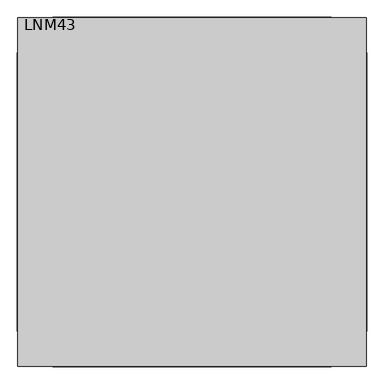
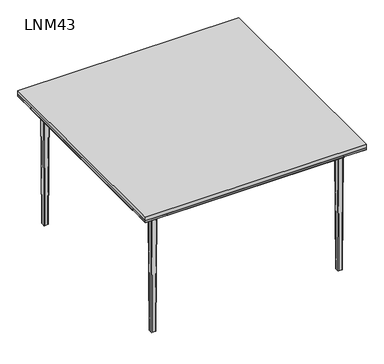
"""IFC4 building model written with IfcOpenShell, lengths in millimetres: furniture geometry, Contact Desks and Operative Twin Desks : LNM43."""

from ifc_helpers import new_model, si_unit, point, frame, origin, place, context, project, spatial, polyline, circle_curve, ellipse_curve, trimmed, outline, extrude, faceted_brep, source, transform, mapped, element, save
from ifc_brep_helpers import plane_surface, cylinder_surface, revolved_surface, extruded_surface, advanced_brep


def lnm43_4dd2b5fd(model_context):
    return source(origin(), model_context, "Body", "SolidModel", [
        extrude(outline(polyline([(600.0, -480.0), (600.0, -600.0), (480.0, -600.0), (480.0, -480.0), (600.0, -480.0)])), frame((0.0, 0.0, 710.0), z_axis=(0.0, 0.0, 1.0), x_axis=(1.0, 0.0, 0.0)), (0.0, 0.0, 1.0), 10.0),
        extrude(outline(polyline([(600.0, 600.0), (600.0, 480.0), (480.0, 480.0), (480.0, 600.0), (600.0, 600.0)])), frame((0.0, 0.0, 710.0), z_axis=(0.0, 0.0, 1.0), x_axis=(1.0, 0.0, 0.0)), (0.0, 0.0, 1.0), 10.0),
        extrude(outline(polyline([(-480.0, 600.0), (-480.0, 480.0), (-600.0, 480.0), (-600.0, 600.0), (-480.0, 600.0)])), frame((0.0, 0.0, 710.0), z_axis=(0.0, 0.0, 1.0), x_axis=(1.0, 0.0, 0.0)), (0.0, 0.0, 1.0), 10.0),
        extrude(outline(polyline([(-600.0, 480.0), (-480.0, 480.0), (-480.0, -480.0), (-600.0, -480.0), (-600.0, 480.0)])), frame((0.0, 0.0, 710.0), z_axis=(0.0, 0.0, 1.0), x_axis=(1.0, 0.0, 0.0)), (0.0, 0.0, 1.0), 10.0),
        extrude(outline(polyline([(480.0, 480.0), (600.0, 480.0), (600.0, -480.0), (480.0, -480.0), (480.0, 480.0)])), frame((0.0, 0.0, 710.0), z_axis=(0.0, 0.0, 1.0), x_axis=(1.0, 0.0, 0.0)), (0.0, 0.0, 1.0), 10.0),
        extrude(outline(polyline([(480.0, -480.0), (480.0, -600.0), (-480.0, -600.0), (-480.0, -480.0), (480.0, -480.0)])), frame((0.0, 0.0, 710.0), z_axis=(0.0, 0.0, 1.0), x_axis=(1.0, 0.0, 0.0)), (0.0, 0.0, 1.0), 10.0),
        extrude(outline(polyline([(480.0, 600.0), (480.0, 480.0), (-480.0, 480.0), (-480.0, 600.0), (480.0, 600.0)])), frame((0.0, 0.0, 710.0), z_axis=(0.0, 0.0, 1.0), x_axis=(1.0, 0.0, 0.0)), (0.0, 0.0, 1.0), 10.0),
        extrude(outline(polyline([(710.0, 480.0), (675.0, 480.0), (675.0, 528.7129935), (710.0, 601.7129935), (710.0, 480.0)])), frame((0.0, -480.0, 0.0), z_axis=(0.0, 1.0, 0.0), x_axis=(0.0, 0.0, 1.0)), (0.0, 0.0, 1.0), 960.0),
        extrude(outline(polyline([(710.0, -480.0), (710.0, -601.7129935), (675.0, -528.7129935), (675.0, -480.0), (710.0, -480.0)])), frame((0.0, -480.0, 0.0), z_axis=(0.0, 1.0, 0.0), x_axis=(0.0, 0.0, 1.0)), (0.0, 0.0, 1.0), 960.0),
        extrude(outline(polyline([(480.0, 710.0), (601.7129935, 710.0), (528.7129935, 675.0), (480.0, 675.0), (480.0, 710.0)])), frame((-480.0, 0.0, 0.0), z_axis=(1.0, 0.0, 0.0), x_axis=(0.0, 1.0, 0.0)), (0.0, 0.0, 1.0), 960.0),
        extrude(outline(polyline([(-480.0, 710.0), (-480.0, 675.0), (-528.7129935, 675.0), (-601.7129935, 710.0), (-480.0, 710.0)])), frame((-480.0, 0.0, 0.0), z_axis=(1.0, 0.0, 0.0), x_axis=(0.0, 1.0, 0.0)), (0.0, 0.0, 1.0), 960.0),
        faceted_brep([(-480.0, 480.0, 710.0), (-480.0, 600.0, 710.0), (-600.0, 600.0, 710.0), (-600.0, 480.0, 710.0), (-480.0, 480.0, 675.0), (-527.0, 480.0, 675.0), (-527.0, 527.0, 675.0), (-480.0, 527.0, 675.0)], [[[0, 1, 2, 3]], [[4, 5, 6, 7]], [[1, 0, 4, 7]], [[0, 3, 5, 4]], [[6, 2, 1, 7]], [[2, 6, 5, 3]]]),
        advanced_brep(
        [(-487.0, 495.0, 675.0), (-487.0, 519.0, 675.0), (-495.0, 527.0, 675.0), (-519.0, 527.0, 675.0), (-527.0, 519.0, 675.0), (-527.0, 495.0, 675.0), (-519.0, 487.0, 675.0), (-495.0, 487.0, 675.0), (-519.0, 492.0, 665.0), (-522.0, 495.0, 665.0), (-522.0, 519.0, 665.0), (-519.0, 522.0, 665.0), (-495.0, 522.0, 665.0), (-492.0, 519.0, 665.0), (-492.0, 495.0, 665.0), (-495.0, 492.0, 665.0), (-487.0, 495.0, 672.0), (-487.0, 519.0, 672.0), (-495.0, 527.0, 672.0), (-519.0, 527.0, 672.0), (-527.0, 519.0, 672.0), (-527.0, 495.0, 672.0), (-519.0, 487.0, 672.0), (-495.0, 487.0, 672.0)],
        [
            (0, 1),
            (1, 2, circle_curve(frame((-495.0, 519.0, 675.0), z_axis=(0.0, 0.0, 1.0), x_axis=(0.0, -1.0000000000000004, 0.0)), 8.0)),
            (2, 3),
            (3, 4, circle_curve(frame((-519.0, 519.0, 675.0), z_axis=(0.0, 0.0, 1.0), x_axis=(0.0, -1.0000000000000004, 0.0)), 8.0)),
            (4, 5),
            (5, 6, circle_curve(frame((-519.0, 495.0, 675.0), z_axis=(0.0, 0.0, 1.0), x_axis=(0.0, -1.0000000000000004, 0.0)), 8.0)),
            (6, 7),
            (7, 0, circle_curve(frame((-495.0, 495.0, 675.0), z_axis=(0.0, 0.0, 1.0), x_axis=(0.0, -1.0000000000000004, 0.0)), 8.0)),
            (8, 9, circle_curve(frame((-519.0, 495.0, 665.0), z_axis=(0.0, 0.0, -1.0), x_axis=(0.0, -1.0000000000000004, 0.0)), 3.0)),
            (9, 10),
            (10, 11, circle_curve(frame((-519.0, 519.0, 665.0), z_axis=(0.0, 0.0, -1.0), x_axis=(-1.0000000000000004, 0.0, 0.0)), 3.0)),
            (11, 12),
            (12, 13, circle_curve(frame((-495.0, 519.0, 665.0), z_axis=(0.0, 0.0, -1.0), x_axis=(0.0, 1.0000000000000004, 0.0)), 3.0)),
            (13, 14),
            (14, 15, circle_curve(frame((-495.0, 495.0, 665.0), z_axis=(0.0, 0.0, -1.0), x_axis=(1.0000000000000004, 0.0, 0.0)), 3.0)),
            (15, 8),
            (0, 16),
            (16, 17),
            (17, 1),
            (17, 18, circle_curve(frame((-495.0, 519.0, 672.0), z_axis=(0.0, 0.0, 1.0), x_axis=(0.0, -1.0000000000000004, 0.0)), 8.0)),
            (18, 2),
            (18, 19),
            (19, 3),
            (19, 20, circle_curve(frame((-519.0, 519.0, 672.0), z_axis=(0.0, 0.0, 1.0), x_axis=(0.0, -1.0000000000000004, 0.0)), 8.0)),
            (20, 4),
            (20, 21),
            (21, 5),
            (21, 22, circle_curve(frame((-519.0, 495.0, 672.0), z_axis=(0.0, 0.0, 1.0), x_axis=(0.0, -1.0000000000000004, 0.0)), 8.0)),
            (22, 6),
            (22, 23),
            (23, 7),
            (23, 16, circle_curve(frame((-495.0, 495.0, 672.0), z_axis=(0.0, 0.0, 1.0), x_axis=(0.0, -1.0000000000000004, 0.0)), 8.0)),
            (21, 9, circle_curve(frame((-530.9600528, 495.0, 663.8856766), z_axis=(0.0, 1.0000000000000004, 0.0), x_axis=(-1.0000000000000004, 0.0, 0.0)), 9.0290787)),
            (8, 22, circle_curve(frame((-519.0, 483.0399472, 663.8856766), z_axis=(1.0000000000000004, 0.0, 0.0), x_axis=(0.0, -1.0000000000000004, 0.0)), 9.0290787)),
            (20, 10, circle_curve(frame((-530.9600528, 519.0, 663.8856766), z_axis=(0.0, 1.0, 0.0), x_axis=(-1.0000000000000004, 0.0, 0.0)), 9.0290787)),
            (19, 11, circle_curve(frame((-519.0, 530.9600528, 663.8856766), z_axis=(1.0000000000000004, 0.0, 0.0), x_axis=(0.0, 1.0000000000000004, 0.0)), 9.0290787)),
            (18, 12, circle_curve(frame((-495.0, 530.9600528, 663.8856766), z_axis=(1.0, 0.0, 0.0), x_axis=(0.0, 1.0000000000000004, 0.0)), 9.0290787)),
            (17, 13, circle_curve(frame((-483.0399472, 519.0, 663.8856766), z_axis=(0.0, -1.0000000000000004, 0.0), x_axis=(1.0000000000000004, 0.0, 0.0)), 9.0290787)),
            (16, 14, circle_curve(frame((-483.0399472, 495.0, 663.8856766), z_axis=(0.0, -1.0, 0.0), x_axis=(1.0000000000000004, 0.0, 0.0)), 9.0290787)),
            (23, 15, circle_curve(frame((-495.0, 483.0399472, 663.8856766), z_axis=(-1.0000000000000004, 0.0, 0.0), x_axis=(0.0, -1.0000000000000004, 0.0)), 9.0290787)),
        ],
        [
            plane_surface(frame((-487.0, 1180.663284, 675.0), z_axis=(0.0, 0.0, 1.0), x_axis=(0.0, 1.0, 0.0))),
            plane_surface(frame((-487.0, 1180.663284, 665.0), z_axis=(0.0, 0.0, -1.0), x_axis=(0.0, -1.0, 0.0))),
            plane_surface(frame((-487.0, 495.0, 675.0), z_axis=(1.0, 0.0, 0.0), x_axis=(0.0, 0.0, -1.0))),
            cylinder_surface(frame((-495.0, 519.0, 665.0), z_axis=(0.0, 0.0, 1.0), x_axis=(0.0, -1.0000000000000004, 0.0)), 8.0),
            plane_surface(frame((-495.0, 527.0, 675.0), z_axis=(0.0, 1.0, 0.0), x_axis=(0.0, 0.0, -1.0))),
            cylinder_surface(frame((-519.0, 519.0, 665.0), z_axis=(0.0, 0.0, 1.0), x_axis=(0.0, -1.0000000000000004, 0.0)), 8.0),
            plane_surface(frame((-527.0, 519.0, 675.0), z_axis=(-1.0, 0.0, 0.0), x_axis=(0.0, 0.0, -1.0))),
            cylinder_surface(frame((-519.0, 495.0, 665.0), z_axis=(0.0, 0.0, 1.0), x_axis=(0.0, -1.0000000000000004, 0.0)), 8.0),
            plane_surface(frame((-519.0, 487.0, 675.0), z_axis=(0.0, -1.0, 0.0), x_axis=(0.0, 0.0, -1.0))),
            cylinder_surface(frame((-495.0, 495.0, 665.0), z_axis=(0.0, 0.0, 1.0), x_axis=(0.0, -1.0000000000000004, 0.0)), 8.0),
            revolved_surface(trimmed(ellipse_curve(frame((-519.0, 483.0399472, 663.8856766), z_axis=(-1.0000000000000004, 0.0, 0.0), x_axis=(0.0, -1.0000000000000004, 0.0)), 9.0290787, 9.0290787), [point((-519.0, 487.0, 672.0))], [point((-519.0, 492.0, 665.0))], True, "CARTESIAN"), (-519.0, 495.0, 0.0), (0.0, 0.0, -1.0)),
            revolved_surface(polyline([(-539.9891315, 495.0, 663.8856766), (-539.9891315, 519.0, 663.8856766)]), (-530.9600528, 495.0, 663.8856766), (0.0, -1.0000000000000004, 0.0)),
            revolved_surface(trimmed(ellipse_curve(frame((-530.9600528, 519.0, 663.8856766), z_axis=(0.0, 1.0000000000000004, 0.0), x_axis=(-1.0000000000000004, 0.0, 0.0)), 9.0290787, 9.0290787), [point((-527.0, 519.0, 672.0))], [point((-522.0, 519.0, 665.0))], True, "CARTESIAN"), (-519.0, 519.0, 0.0), (0.0, 0.0, -1.0)),
            revolved_surface(polyline([(-519.0, 539.9891315, 663.8856766), (-495.0, 539.9891315, 663.8856766)]), (-519.0, 530.9600528, 663.8856766), (-1.0000000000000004, 0.0, 0.0)),
            revolved_surface(trimmed(ellipse_curve(frame((-495.0, 530.9600528, 663.8856766), z_axis=(1.0000000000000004, 0.0, 0.0), x_axis=(0.0, 1.0000000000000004, 0.0)), 9.0290787, 9.0290787), [point((-495.0, 527.0, 672.0))], [point((-495.0, 522.0, 665.0))], True, "CARTESIAN"), (-495.0, 519.0, 0.0), (0.0, 0.0, -1.0)),
            revolved_surface(polyline([(-474.01086849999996, 519.0, 663.8856766), (-474.01086849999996, 495.0, 663.8856766)]), (-483.0399472, 519.0, 663.8856766), (0.0, 1.0000000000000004, 0.0)),
            revolved_surface(trimmed(ellipse_curve(frame((-483.0399472, 495.0, 663.8856766), z_axis=(0.0, -1.0000000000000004, 0.0), x_axis=(1.0000000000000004, 0.0, 0.0)), 9.0290787, 9.0290787), [point((-487.0, 495.0, 672.0))], [point((-492.0, 495.0, 665.0))], True, "CARTESIAN"), (-495.0, 495.0, 0.0), (0.0, 0.0, -1.0)),
            revolved_surface(polyline([(-495.0, 474.01086849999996, 663.8856766), (-519.0, 474.01086849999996, 663.8856766)]), (-495.0, 483.0399472, 663.8856766), (1.0000000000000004, 0.0, 0.0)),
        ],
        [
            (0, [[1, 2, 3, 4, 5, 6, 7, 8]]),
            (1, [[9, 10, 11, 12, 13, 14, 15, 16]]),
            (2, [[-1, 17, 18, 19]]),
            (3, [[-2, -19, 20, 21]]),
            (4, [[-3, -21, 22, 23]]),
            (5, [[-4, -23, 24, 25]]),
            (6, [[-5, -25, 26, 27]]),
            (7, [[-6, -27, 28, 29]]),
            (8, [[-7, -29, 30, 31]]),
            (9, [[-8, -31, 32, -17]]),
            (10, [[33, -9, 34, -28]]),
            (11, [[-33, -26, 35, -10]]),
            (12, [[-35, -24, 36, -11]]),
            (13, [[-36, -22, 37, -12]]),
            (14, [[-37, -20, 38, -13]]),
            (15, [[-38, -18, 39, -14]]),
            (16, [[-39, -32, 40, -15]]),
            (17, [[-34, -16, -40, -30]]),
        ],
    ),
        advanced_brep(
        [(-519.0, 522.0, 665.0), (-522.0, 519.0, 665.0), (-522.0, 495.0, 665.0), (-519.0, 492.0, 665.0), (-495.0, 492.0, 665.0), (-492.0, 495.0, 665.0), (-492.0, 519.0, 665.0), (-495.0, 522.0, 665.0), (-516.0, 519.0, 0.0), (-498.0, 519.0, 0.0), (-495.0, 516.0, 0.0), (-495.0, 498.0, 0.0), (-498.0, 495.0, 0.0), (-516.0, 495.0, 0.0), (-519.0, 498.0, 0.0), (-519.0, 516.0, 0.0)],
        [
            (0, 1, circle_curve(frame((-519.0, 519.0, 665.0), z_axis=(0.0, 0.0, 1.0), x_axis=(0.0, -1.0, 0.0)), 3.0)),
            (1, 2),
            (2, 3, circle_curve(frame((-519.0, 495.0, 665.0), z_axis=(0.0, 0.0, 1.0), x_axis=(0.0, -1.0, 0.0)), 3.0)),
            (3, 4),
            (4, 5, circle_curve(frame((-495.0, 495.0, 665.0), z_axis=(0.0, 0.0, 1.0), x_axis=(0.0, -1.0, 0.0)), 3.0)),
            (5, 6),
            (6, 7, circle_curve(frame((-495.0, 519.0, 665.0), z_axis=(0.0, 0.0, 1.0), x_axis=(0.0, -1.0, 0.0)), 3.0)),
            (7, 0),
            (8, 9),
            (9, 10, circle_curve(frame((-498.0, 516.0, 0.0), z_axis=(0.0, 0.0, -1.0), x_axis=(0.0, -1.0, 0.0)), 3.0)),
            (10, 11),
            (11, 12, circle_curve(frame((-498.0, 498.0, 0.0), z_axis=(0.0, 0.0, -1.0), x_axis=(0.0, -1.0, 0.0)), 3.0)),
            (12, 13),
            (13, 14, circle_curve(frame((-516.0, 498.0, 0.0), z_axis=(0.0, 0.0, -1.0), x_axis=(0.0, -1.0, 0.0)), 3.0)),
            (14, 15),
            (15, 8, circle_curve(frame((-516.0, 516.0, 0.0), z_axis=(0.0, 0.0, -1.0), x_axis=(0.0, -1.0, 0.0)), 3.0)),
            (15, 1),
            (0, 8),
            (14, 2),
            (13, 3),
            (12, 4),
            (11, 5),
            (10, 6),
            (9, 7),
        ],
        [
            plane_surface(frame((-507.0, 507.0, 665.0), z_axis=(0.0, 0.0, 1.0), x_axis=(0.0, 1.0, 0.0))),
            plane_surface(frame((-507.0, 507.0, 0.0), z_axis=(0.0, 0.0, -1.0), x_axis=(0.0, 1.0, 0.0))),
            extruded_surface(trimmed(circle_curve(frame((-516.0, 516.0, 0.0), z_axis=(0.0, 0.0, 1.0), x_axis=(0.0, -1.0, 0.0)), 3.0), [point((-516.0, 519.0, 0.0))], [point((-519.0, 516.0, 0.0))], True, "CARTESIAN"), (-3.0, 3.0, 665.0), 665.0135336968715),
            plane_surface(frame((-519.0, 507.0, 0.0), z_axis=(-0.9999898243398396, 0.0, -0.004511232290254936), x_axis=(0.0, -1.0, 0.0))),
            extruded_surface(trimmed(circle_curve(frame((-516.0, 498.0, 0.0), z_axis=(0.0, 0.0, 1.0), x_axis=(0.0, -1.0, 0.0)), 3.0), [point((-519.0, 498.0, 0.0))], [point((-516.0, 495.0, 0.0))], True, "CARTESIAN"), (-3.0, -3.0, 665.0), 665.0135336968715),
            plane_surface(frame((-507.0, 495.0, 0.0), z_axis=(0.0, -0.9999898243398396, -0.004511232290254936), x_axis=(1.0, 0.0, 0.0))),
            extruded_surface(trimmed(circle_curve(frame((-498.0, 498.0, 0.0), z_axis=(0.0, 0.0, 1.0), x_axis=(0.0, -1.0, 0.0)), 3.0), [point((-498.0, 495.0, 0.0))], [point((-495.0, 498.0, 0.0))], True, "CARTESIAN"), (3.0, -3.0, 665.0), 665.0135336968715),
            plane_surface(frame((-495.0, 507.0, 0.0), z_axis=(0.9999898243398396, 0.0, -0.004511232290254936), x_axis=(0.0, 1.0, 0.0))),
            extruded_surface(trimmed(circle_curve(frame((-498.0, 516.0, 0.0), z_axis=(0.0, 0.0, 1.0), x_axis=(0.0, -1.0, 0.0)), 3.0), [point((-495.0, 516.0, 0.0))], [point((-498.0, 519.0, 0.0))], True, "CARTESIAN"), (3.0, 3.0, 665.0), 665.0135336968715),
            plane_surface(frame((-507.0, 519.0, 0.0), z_axis=(0.0, 0.9999898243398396, -0.004511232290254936), x_axis=(-1.0, 0.0, 0.0))),
        ],
        [
            (0, [[1, 2, 3, 4, 5, 6, 7, 8]]),
            (1, [[9, 10, 11, 12, 13, 14, 15, 16]]),
            (2, [[-16, 17, -1, 18]]),
            (3, [[-15, 19, -2, -17]]),
            (4, [[-14, 20, -3, -19]]),
            (5, [[-13, 21, -4, -20]]),
            (6, [[-12, 22, -5, -21]]),
            (7, [[-11, 23, -6, -22]]),
            (8, [[-10, 24, -7, -23]]),
            (9, [[-9, -18, -8, -24]]),
        ],
    ),
        faceted_brep([(480.0, -480.0, 710.0), (480.0, -600.0, 710.0), (600.0, -600.0, 710.0), (600.0, -480.0, 710.0), (480.0, -480.0, 675.0), (527.0, -480.0, 675.0), (527.0, -527.0, 675.0), (480.0, -527.0, 675.0)], [[[0, 1, 2, 3]], [[4, 5, 6, 7]], [[1, 0, 4, 7]], [[0, 3, 5, 4]], [[6, 2, 1, 7]], [[2, 6, 5, 3]]]),
        advanced_brep(
        [(487.0, -495.0, 675.0), (487.0, -519.0, 675.0), (495.0, -527.0, 675.0), (519.0, -527.0, 675.0), (527.0, -519.0, 675.0), (527.0, -495.0, 675.0), (519.0, -487.0, 675.0), (495.0, -487.0, 675.0), (519.0, -492.0, 665.0), (522.0, -495.0, 665.0), (522.0, -519.0, 665.0), (519.0, -522.0, 665.0), (495.0, -522.0, 665.0), (492.0, -519.0, 665.0), (492.0, -495.0, 665.0), (495.0, -492.0, 665.0), (487.0, -495.0, 672.0), (487.0, -519.0, 672.0), (495.0, -527.0, 672.0), (519.0, -527.0, 672.0), (527.0, -519.0, 672.0), (527.0, -495.0, 672.0), (519.0, -487.0, 672.0), (495.0, -487.0, 672.0)],
        [
            (0, 1),
            (1, 2, circle_curve(frame((495.0, -519.0, 675.0), z_axis=(0.0, 0.0, 1.0), x_axis=(0.0, 1.0000000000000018, 0.0)), 8.0)),
            (2, 3),
            (3, 4, circle_curve(frame((519.0, -519.0, 675.0), z_axis=(0.0, 0.0, 1.0), x_axis=(0.0, 1.0000000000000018, 0.0)), 8.0)),
            (4, 5),
            (5, 6, circle_curve(frame((519.0, -495.0, 675.0), z_axis=(0.0, 0.0, 1.0), x_axis=(0.0, 1.0000000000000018, 0.0)), 8.0)),
            (6, 7),
            (7, 0, circle_curve(frame((495.0, -495.0, 675.0), z_axis=(0.0, 0.0, 1.0), x_axis=(0.0, 1.0000000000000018, 0.0)), 8.0)),
            (8, 9, circle_curve(frame((519.0, -495.0, 665.0), z_axis=(0.0, 0.0, -1.0), x_axis=(0.0, 1.0000000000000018, 0.0)), 3.0)),
            (9, 10),
            (10, 11, circle_curve(frame((519.0, -519.0, 665.0), z_axis=(0.0, 0.0, -1.0), x_axis=(1.0000000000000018, 0.0, 0.0)), 3.0)),
            (11, 12),
            (12, 13, circle_curve(frame((495.0, -519.0, 665.0), z_axis=(0.0, 0.0, -1.0), x_axis=(0.0, -1.0000000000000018, 0.0)), 3.0)),
            (13, 14),
            (14, 15, circle_curve(frame((495.0, -495.0, 665.0), z_axis=(0.0, 0.0, -1.0), x_axis=(-1.0000000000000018, 0.0, 0.0)), 3.0)),
            (15, 8),
            (0, 16),
            (16, 17),
            (17, 1),
            (17, 18, circle_curve(frame((495.0, -519.0, 672.0), z_axis=(0.0, 0.0, 1.0), x_axis=(0.0, 1.0000000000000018, 0.0)), 8.0)),
            (18, 2),
            (18, 19),
            (19, 3),
            (19, 20, circle_curve(frame((519.0, -519.0, 672.0), z_axis=(0.0, 0.0, 1.0), x_axis=(0.0, 1.0000000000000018, 0.0)), 8.0)),
            (20, 4),
            (20, 21),
            (21, 5),
            (21, 22, circle_curve(frame((519.0, -495.0, 672.0), z_axis=(0.0, 0.0, 1.0), x_axis=(0.0, 1.0000000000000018, 0.0)), 8.0)),
            (22, 6),
            (22, 23),
            (23, 7),
            (23, 16, circle_curve(frame((495.0, -495.0, 672.0), z_axis=(0.0, 0.0, 1.0), x_axis=(0.0, 1.0000000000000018, 0.0)), 8.0)),
            (21, 9, circle_curve(frame((530.9600528, -495.0, 663.8856766), z_axis=(0.0, -1.0000000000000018, 0.0), x_axis=(1.0000000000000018, 0.0, 0.0)), 9.0290787)),
            (8, 22, circle_curve(frame((519.0, -483.0399472, 663.8856766), z_axis=(-1.0000000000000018, 0.0, 0.0), x_axis=(0.0, 1.0000000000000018, 0.0)), 9.0290787)),
            (20, 10, circle_curve(frame((530.9600528, -519.0, 663.8856766), z_axis=(0.0, -1.0, 0.0), x_axis=(1.0000000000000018, 0.0, 0.0)), 9.0290787)),
            (19, 11, circle_curve(frame((519.0, -530.9600528, 663.8856766), z_axis=(-1.0000000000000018, 0.0, 0.0), x_axis=(0.0, -1.0000000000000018, 0.0)), 9.0290787)),
            (18, 12, circle_curve(frame((495.0, -530.9600528, 663.8856766), z_axis=(-1.0, 0.0, 0.0), x_axis=(0.0, -1.0000000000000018, 0.0)), 9.0290787)),
            (17, 13, circle_curve(frame((483.0399472, -519.0, 663.8856766), z_axis=(0.0, 1.0000000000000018, 0.0), x_axis=(-1.0000000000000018, 0.0, 0.0)), 9.0290787)),
            (16, 14, circle_curve(frame((483.0399472, -495.0, 663.8856766), z_axis=(0.0, 1.0, 0.0), x_axis=(-1.0000000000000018, 0.0, 0.0)), 9.0290787)),
            (23, 15, circle_curve(frame((495.0, -483.0399472, 663.8856766), z_axis=(1.0000000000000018, 0.0, 0.0), x_axis=(0.0, 1.0000000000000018, 0.0)), 9.0290787)),
        ],
        [
            plane_surface(frame((487.0, -1180.663284, 675.0), z_axis=(0.0, 0.0, 1.0), x_axis=(0.0, -1.0, 0.0))),
            plane_surface(frame((487.0, -1180.663284, 665.0), z_axis=(0.0, 0.0, -1.0), x_axis=(0.0, 1.0, 0.0))),
            plane_surface(frame((487.0, -495.0, 675.0), z_axis=(-1.0, 0.0, 0.0), x_axis=(0.0, 0.0, -1.0))),
            cylinder_surface(frame((495.0, -519.0, 665.0), z_axis=(0.0, 0.0, 1.0), x_axis=(0.0, 1.0000000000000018, 0.0)), 8.0),
            plane_surface(frame((495.0, -527.0, 675.0), z_axis=(0.0, -1.0, 0.0), x_axis=(0.0, 0.0, -1.0))),
            cylinder_surface(frame((519.0, -519.0, 665.0), z_axis=(0.0, 0.0, 1.0), x_axis=(0.0, 1.0000000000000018, 0.0)), 8.0),
            plane_surface(frame((527.0, -519.0, 675.0), z_axis=(1.0, 0.0, 0.0), x_axis=(0.0, 0.0, -1.0))),
            cylinder_surface(frame((519.0, -495.0, 665.0), z_axis=(0.0, 0.0, 1.0), x_axis=(0.0, 1.0000000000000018, 0.0)), 8.0),
            plane_surface(frame((519.0, -487.0, 675.0), z_axis=(0.0, 1.0, 0.0), x_axis=(0.0, 0.0, -1.0))),
            cylinder_surface(frame((495.0, -495.0, 665.0), z_axis=(0.0, 0.0, 1.0), x_axis=(0.0, 1.0000000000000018, 0.0)), 8.0),
            revolved_surface(trimmed(ellipse_curve(frame((519.0, -483.0399472, 663.8856766), z_axis=(1.0000000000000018, 0.0, 0.0), x_axis=(0.0, 1.0000000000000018, 0.0)), 9.0290787, 9.0290787), [point((519.0, -487.0, 672.0))], [point((519.0, -492.0, 665.0))], True, "CARTESIAN"), (519.0, -495.0, 0.0), (0.0, 0.0, -1.0)),
            revolved_surface(polyline([(539.9891315, -495.0, 663.8856766), (539.9891315, -519.0000000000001, 663.8856766)]), (530.9600528, -495.0, 663.8856766), (0.0, 1.0000000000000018, 0.0)),
            revolved_surface(trimmed(ellipse_curve(frame((530.9600528, -519.0, 663.8856766), z_axis=(0.0, -1.0000000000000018, 0.0), x_axis=(1.0000000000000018, 0.0, 0.0)), 9.0290787, 9.0290787), [point((527.0, -519.0, 672.0))], [point((522.0, -519.0, 665.0))], True, "CARTESIAN"), (519.0, -519.0, 0.0), (0.0, 0.0, -1.0)),
            revolved_surface(polyline([(519.0, -539.9891315, 663.8856766), (494.9999999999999, -539.9891315, 663.8856766)]), (519.0, -530.9600528, 663.8856766), (1.0000000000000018, 0.0, 0.0)),
            revolved_surface(trimmed(ellipse_curve(frame((495.0, -530.9600528, 663.8856766), z_axis=(-1.0000000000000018, 0.0, 0.0), x_axis=(0.0, -1.0000000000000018, 0.0)), 9.0290787, 9.0290787), [point((495.0, -527.0, 672.0))], [point((495.0, -522.0, 665.0))], True, "CARTESIAN"), (495.0, -519.0, 0.0), (0.0, 0.0, -1.0)),
            revolved_surface(polyline([(474.01086849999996, -519.0, 663.8856766), (474.01086849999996, -494.9999999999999, 663.8856766)]), (483.0399472, -519.0, 663.8856766), (0.0, -1.0000000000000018, 0.0)),
            revolved_surface(trimmed(ellipse_curve(frame((483.0399472, -495.0, 663.8856766), z_axis=(0.0, 1.0000000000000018, 0.0), x_axis=(-1.0000000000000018, 0.0, 0.0)), 9.0290787, 9.0290787), [point((487.0, -495.0, 672.0))], [point((492.0, -495.0, 665.0))], True, "CARTESIAN"), (495.0, -495.0, 0.0), (0.0, 0.0, -1.0)),
            revolved_surface(polyline([(495.0, -474.01086849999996, 663.8856766), (519.0000000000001, -474.01086849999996, 663.8856766)]), (495.0, -483.0399472, 663.8856766), (-1.0000000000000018, 0.0, 0.0)),
        ],
        [
            (0, [[1, 2, 3, 4, 5, 6, 7, 8]]),
            (1, [[9, 10, 11, 12, 13, 14, 15, 16]]),
            (2, [[-1, 17, 18, 19]]),
            (3, [[-2, -19, 20, 21]]),
            (4, [[-3, -21, 22, 23]]),
            (5, [[-4, -23, 24, 25]]),
            (6, [[-5, -25, 26, 27]]),
            (7, [[-6, -27, 28, 29]]),
            (8, [[-7, -29, 30, 31]]),
            (9, [[-8, -31, 32, -17]]),
            (10, [[33, -9, 34, -28]]),
            (11, [[-33, -26, 35, -10]]),
            (12, [[-35, -24, 36, -11]]),
            (13, [[-36, -22, 37, -12]]),
            (14, [[-37, -20, 38, -13]]),
            (15, [[-38, -18, 39, -14]]),
            (16, [[-39, -32, 40, -15]]),
            (17, [[-34, -16, -40, -30]]),
        ],
    ),
        advanced_brep(
        [(519.0, -522.0, 665.0), (522.0, -519.0, 665.0), (522.0, -495.0, 665.0), (519.0, -492.0, 665.0), (495.0, -492.0, 665.0), (492.0, -495.0, 665.0), (492.0, -519.0, 665.0), (495.0, -522.0, 665.0), (516.0, -519.0, 0.0), (498.0, -519.0, 0.0), (495.0, -516.0, 0.0), (495.0, -498.0, 0.0), (498.0, -495.0, 0.0), (516.0, -495.0, 0.0), (519.0, -498.0, 0.0), (519.0, -516.0, 0.0)],
        [
            (0, 1, circle_curve(frame((519.0, -519.0, 665.0), z_axis=(0.0, 0.0, 1.0), x_axis=(0.0, 1.0, 0.0)), 3.0)),
            (1, 2),
            (2, 3, circle_curve(frame((519.0, -495.0, 665.0), z_axis=(0.0, 0.0, 1.0), x_axis=(0.0, 1.0, 0.0)), 3.0)),
            (3, 4),
            (4, 5, circle_curve(frame((495.0, -495.0, 665.0), z_axis=(0.0, 0.0, 1.0), x_axis=(0.0, 1.0, 0.0)), 3.0)),
            (5, 6),
            (6, 7, circle_curve(frame((495.0, -519.0, 665.0), z_axis=(0.0, 0.0, 1.0), x_axis=(0.0, 1.0, 0.0)), 3.0)),
            (7, 0),
            (8, 9),
            (9, 10, circle_curve(frame((498.0, -516.0, 0.0), z_axis=(0.0, 0.0, -1.0), x_axis=(0.0, 1.0, 0.0)), 3.0)),
            (10, 11),
            (11, 12, circle_curve(frame((498.0, -498.0, 0.0), z_axis=(0.0, 0.0, -1.0), x_axis=(0.0, 1.0, 0.0)), 3.0)),
            (12, 13),
            (13, 14, circle_curve(frame((516.0, -498.0, 0.0), z_axis=(0.0, 0.0, -1.0), x_axis=(0.0, 1.0, 0.0)), 3.0)),
            (14, 15),
            (15, 8, circle_curve(frame((516.0, -516.0, 0.0), z_axis=(0.0, 0.0, -1.0), x_axis=(0.0, 1.0, 0.0)), 3.0)),
            (15, 1),
            (0, 8),
            (14, 2),
            (13, 3),
            (12, 4),
            (11, 5),
            (10, 6),
            (9, 7),
        ],
        [
            plane_surface(frame((507.0, -507.0, 665.0), z_axis=(0.0, 0.0, 1.0), x_axis=(0.0, -1.0, 0.0))),
            plane_surface(frame((507.0, -507.0, 0.0), z_axis=(0.0, 0.0, -1.0), x_axis=(0.0, -1.0, 0.0))),
            extruded_surface(trimmed(circle_curve(frame((516.0, -516.0, 0.0), z_axis=(0.0, 0.0, 1.0), x_axis=(0.0, 1.0, 0.0)), 3.0), [point((516.0, -519.0, 0.0))], [point((519.0, -516.0, 0.0))], True, "CARTESIAN"), (3.0, -3.0, 665.0), 665.0135336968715),
            plane_surface(frame((519.0, -507.0, 0.0), z_axis=(0.9999898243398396, 0.0, -0.004511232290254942), x_axis=(0.0, 1.0, 0.0))),
            extruded_surface(trimmed(circle_curve(frame((516.0, -498.0, 0.0), z_axis=(0.0, 0.0, 1.0), x_axis=(0.0, 1.0, 0.0)), 3.0), [point((519.0, -498.0, 0.0))], [point((516.0, -495.0, 0.0))], True, "CARTESIAN"), (3.0, 3.0, 665.0), 665.0135336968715),
            plane_surface(frame((507.0, -495.0, 0.0), z_axis=(0.0, 0.9999898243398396, -0.004511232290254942), x_axis=(-1.0, 0.0, 0.0))),
            extruded_surface(trimmed(circle_curve(frame((498.0, -498.0, 0.0), z_axis=(0.0, 0.0, 1.0), x_axis=(0.0, 1.0, 0.0)), 3.0), [point((498.0, -495.0, 0.0))], [point((495.0, -498.0, 0.0))], True, "CARTESIAN"), (-3.0, 3.0, 665.0), 665.0135336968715),
            plane_surface(frame((495.0, -507.0, 0.0), z_axis=(-0.9999898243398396, 0.0, -0.004511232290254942), x_axis=(0.0, -1.0, 0.0))),
            extruded_surface(trimmed(circle_curve(frame((498.0, -516.0, 0.0), z_axis=(0.0, 0.0, 1.0), x_axis=(0.0, 1.0, 0.0)), 3.0), [point((495.0, -516.0, 0.0))], [point((498.0, -519.0, 0.0))], True, "CARTESIAN"), (-3.0, -3.0, 665.0), 665.0135336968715),
            plane_surface(frame((507.0, -519.0, 0.0), z_axis=(0.0, -0.9999898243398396, -0.004511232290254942), x_axis=(1.0, 0.0, 0.0))),
        ],
        [
            (0, [[1, 2, 3, 4, 5, 6, 7, 8]]),
            (1, [[9, 10, 11, 12, 13, 14, 15, 16]]),
            (2, [[-16, 17, -1, 18]]),
            (3, [[-15, 19, -2, -17]]),
            (4, [[-14, 20, -3, -19]]),
            (5, [[-13, 21, -4, -20]]),
            (6, [[-12, 22, -5, -21]]),
            (7, [[-11, 23, -6, -22]]),
            (8, [[-10, 24, -7, -23]]),
            (9, [[-9, -18, -8, -24]]),
        ],
    ),
        faceted_brep([(480.0, 480.0, 710.0), (600.0, 480.0, 710.0), (600.0, 600.0, 710.0), (480.0, 600.0, 710.0), (480.0, 480.0, 675.0), (480.0, 527.0, 675.0), (527.0, 527.0, 675.0), (527.0, 480.0, 675.0)], [[[0, 1, 2, 3]], [[4, 5, 6, 7]], [[1, 0, 4, 7]], [[0, 3, 5, 4]], [[6, 2, 1, 7]], [[2, 6, 5, 3]]]),
        advanced_brep(
        [(495.0, 487.0, 675.0), (519.0, 487.0, 675.0), (527.0, 495.0, 675.0), (527.0, 519.0, 675.0), (519.0, 527.0, 675.0), (495.0, 527.0, 675.0), (487.0, 519.0, 675.0), (487.0, 495.0, 675.0), (492.0, 519.0, 665.0), (495.0, 522.0, 665.0), (519.0, 522.0, 665.0), (522.0, 519.0, 665.0), (522.0, 495.0, 665.0), (519.0, 492.0, 665.0), (495.0, 492.0, 665.0), (492.0, 495.0, 665.0), (495.0, 487.0, 672.0), (519.0, 487.0, 672.0), (527.0, 495.0, 672.0), (527.0, 519.0, 672.0), (519.0, 527.0, 672.0), (495.0, 527.0, 672.0), (487.0, 519.0, 672.0), (487.0, 495.0, 672.0)],
        [
            (0, 1),
            (1, 2, circle_curve(frame((519.0, 495.0, 675.0), z_axis=(0.0, 0.0, 1.0), x_axis=(-1.0000000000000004, 0.0, 0.0)), 8.0)),
            (2, 3),
            (3, 4, circle_curve(frame((519.0, 519.0, 675.0), z_axis=(0.0, 0.0, 1.0), x_axis=(-1.0000000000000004, 0.0, 0.0)), 8.0)),
            (4, 5),
            (5, 6, circle_curve(frame((495.0, 519.0, 675.0), z_axis=(0.0, 0.0, 1.0), x_axis=(-1.0000000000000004, 0.0, 0.0)), 8.0)),
            (6, 7),
            (7, 0, circle_curve(frame((495.0, 495.0, 675.0), z_axis=(0.0, 0.0, 1.0), x_axis=(-1.0000000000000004, 0.0, 0.0)), 8.0)),
            (8, 9, circle_curve(frame((495.0, 519.0, 665.0), z_axis=(0.0, 0.0, -1.0), x_axis=(-1.0000000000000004, 0.0, 0.0)), 3.0)),
            (9, 10),
            (10, 11, circle_curve(frame((519.0, 519.0, 665.0), z_axis=(0.0, 0.0, -1.0), x_axis=(0.0, 1.0000000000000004, 0.0)), 3.0)),
            (11, 12),
            (12, 13, circle_curve(frame((519.0, 495.0, 665.0), z_axis=(0.0, 0.0, -1.0), x_axis=(1.0000000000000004, 0.0, 0.0)), 3.0)),
            (13, 14),
            (14, 15, circle_curve(frame((495.0, 495.0, 665.0), z_axis=(0.0, 0.0, -1.0), x_axis=(0.0, -1.0000000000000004, 0.0)), 3.0)),
            (15, 8),
            (0, 16),
            (16, 17),
            (17, 1),
            (17, 18, circle_curve(frame((519.0, 495.0, 672.0), z_axis=(0.0, 0.0, 1.0), x_axis=(-1.0000000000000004, 0.0, 0.0)), 8.0)),
            (18, 2),
            (18, 19),
            (19, 3),
            (19, 20, circle_curve(frame((519.0, 519.0, 672.0), z_axis=(0.0, 0.0, 1.0), x_axis=(-1.0000000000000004, 0.0, 0.0)), 8.0)),
            (20, 4),
            (20, 21),
            (21, 5),
            (21, 22, circle_curve(frame((495.0, 519.0, 672.0), z_axis=(0.0, 0.0, 1.0), x_axis=(-1.0000000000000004, 0.0, 0.0)), 8.0)),
            (22, 6),
            (22, 23),
            (23, 7),
            (23, 16, circle_curve(frame((495.0, 495.0, 672.0), z_axis=(0.0, 0.0, 1.0), x_axis=(-1.0000000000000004, 0.0, 0.0)), 8.0)),
            (21, 9, circle_curve(frame((495.0, 530.9600528, 663.8856766), z_axis=(1.0000000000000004, 0.0, 0.0), x_axis=(0.0, 1.0000000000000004, 0.0)), 9.0290787)),
            (8, 22, circle_curve(frame((483.0399472, 519.0, 663.8856766), z_axis=(0.0, -1.0000000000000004, 0.0), x_axis=(-1.0000000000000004, 0.0, 0.0)), 9.0290787)),
            (20, 10, circle_curve(frame((519.0, 530.9600528, 663.8856766), z_axis=(1.0, 0.0, 0.0), x_axis=(0.0, 1.0000000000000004, 0.0)), 9.0290787)),
            (19, 11, circle_curve(frame((530.9600528, 519.0, 663.8856766), z_axis=(0.0, -1.0000000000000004, 0.0), x_axis=(1.0000000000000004, 0.0, 0.0)), 9.0290787)),
            (18, 12, circle_curve(frame((530.9600528, 495.0, 663.8856766), z_axis=(0.0, -1.0, 0.0), x_axis=(1.0000000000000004, 0.0, 0.0)), 9.0290787)),
            (17, 13, circle_curve(frame((519.0, 483.0399472, 663.8856766), z_axis=(-1.0000000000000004, 0.0, 0.0), x_axis=(0.0, -1.0000000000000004, 0.0)), 9.0290787)),
            (16, 14, circle_curve(frame((495.0, 483.0399472, 663.8856766), z_axis=(-1.0, 0.0, 0.0), x_axis=(0.0, -1.0000000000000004, 0.0)), 9.0290787)),
            (23, 15, circle_curve(frame((483.0399472, 495.0, 663.8856766), z_axis=(0.0, 1.0000000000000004, 0.0), x_axis=(-1.0000000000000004, 0.0, 0.0)), 9.0290787)),
        ],
        [
            plane_surface(frame((1180.663284, 487.0, 675.0), z_axis=(0.0, 0.0, 1.0), x_axis=(1.0, 0.0, 0.0))),
            plane_surface(frame((1180.663284, 487.0, 665.0), z_axis=(0.0, 0.0, -1.0), x_axis=(-1.0, 0.0, 0.0))),
            plane_surface(frame((495.0, 487.0, 675.0), z_axis=(0.0, -1.0, 0.0), x_axis=(0.0, 0.0, -1.0))),
            cylinder_surface(frame((519.0, 495.0, 665.0), z_axis=(0.0, 0.0, 1.0), x_axis=(-1.0000000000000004, 0.0, 0.0)), 8.0),
            plane_surface(frame((527.0, 495.0, 675.0), z_axis=(1.0, 0.0, 0.0), x_axis=(0.0, 0.0, -1.0))),
            cylinder_surface(frame((519.0, 519.0, 665.0), z_axis=(0.0, 0.0, 1.0), x_axis=(-1.0000000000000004, 0.0, 0.0)), 8.0),
            plane_surface(frame((519.0, 527.0, 675.0), z_axis=(0.0, 1.0, 0.0), x_axis=(0.0, 0.0, -1.0))),
            cylinder_surface(frame((495.0, 519.0, 665.0), z_axis=(0.0, 0.0, 1.0), x_axis=(-1.0000000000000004, 0.0, 0.0)), 8.0),
            plane_surface(frame((487.0, 519.0, 675.0), z_axis=(-1.0, 0.0, 0.0), x_axis=(0.0, 0.0, -1.0))),
            cylinder_surface(frame((495.0, 495.0, 665.0), z_axis=(0.0, 0.0, 1.0), x_axis=(-1.0000000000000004, 0.0, 0.0)), 8.0),
            revolved_surface(trimmed(ellipse_curve(frame((483.0399472, 519.0, 663.8856766), z_axis=(0.0, 1.0000000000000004, 0.0), x_axis=(-1.0000000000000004, 0.0, 0.0)), 9.0290787, 9.0290787), [point((487.0, 519.0, 672.0))], [point((492.0, 519.0, 665.0))], True, "CARTESIAN"), (495.0, 519.0, 0.0), (0.0, 0.0, -1.0)),
            revolved_surface(polyline([(495.0, 539.9891315, 663.8856766), (519.0, 539.9891315, 663.8856766)]), (495.0, 530.9600528, 663.8856766), (-1.0000000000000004, 0.0, 0.0)),
            revolved_surface(trimmed(ellipse_curve(frame((519.0, 530.9600528, 663.8856766), z_axis=(1.0000000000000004, 0.0, 0.0), x_axis=(0.0, 1.0000000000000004, 0.0)), 9.0290787, 9.0290787), [point((519.0, 527.0, 672.0))], [point((519.0, 522.0, 665.0))], True, "CARTESIAN"), (519.0, 519.0, 0.0), (0.0, 0.0, -1.0)),
            revolved_surface(polyline([(539.9891315, 519.0, 663.8856766), (539.9891315, 495.0, 663.8856766)]), (530.9600528, 519.0, 663.8856766), (0.0, 1.0000000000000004, 0.0)),
            revolved_surface(trimmed(ellipse_curve(frame((530.9600528, 495.0, 663.8856766), z_axis=(0.0, -1.0000000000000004, 0.0), x_axis=(1.0000000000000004, 0.0, 0.0)), 9.0290787, 9.0290787), [point((527.0, 495.0, 672.0))], [point((522.0, 495.0, 665.0))], True, "CARTESIAN"), (519.0, 495.0, 0.0), (0.0, 0.0, -1.0)),
            revolved_surface(polyline([(519.0, 474.01086849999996, 663.8856766), (495.0, 474.01086849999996, 663.8856766)]), (519.0, 483.0399472, 663.8856766), (1.0000000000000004, 0.0, 0.0)),
            revolved_surface(trimmed(ellipse_curve(frame((495.0, 483.0399472, 663.8856766), z_axis=(-1.0000000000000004, 0.0, 0.0), x_axis=(0.0, -1.0000000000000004, 0.0)), 9.0290787, 9.0290787), [point((495.0, 487.0, 672.0))], [point((495.0, 492.0, 665.0))], True, "CARTESIAN"), (495.0, 495.0, 0.0), (0.0, 0.0, -1.0)),
            revolved_surface(polyline([(474.01086849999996, 495.0, 663.8856766), (474.01086849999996, 519.0, 663.8856766)]), (483.0399472, 495.0, 663.8856766), (0.0, -1.0000000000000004, 0.0)),
        ],
        [
            (0, [[1, 2, 3, 4, 5, 6, 7, 8]]),
            (1, [[9, 10, 11, 12, 13, 14, 15, 16]]),
            (2, [[-1, 17, 18, 19]]),
            (3, [[-2, -19, 20, 21]]),
            (4, [[-3, -21, 22, 23]]),
            (5, [[-4, -23, 24, 25]]),
            (6, [[-5, -25, 26, 27]]),
            (7, [[-6, -27, 28, 29]]),
            (8, [[-7, -29, 30, 31]]),
            (9, [[-8, -31, 32, -17]]),
            (10, [[33, -9, 34, -28]]),
            (11, [[-33, -26, 35, -10]]),
            (12, [[-35, -24, 36, -11]]),
            (13, [[-36, -22, 37, -12]]),
            (14, [[-37, -20, 38, -13]]),
            (15, [[-38, -18, 39, -14]]),
            (16, [[-39, -32, 40, -15]]),
            (17, [[-34, -16, -40, -30]]),
        ],
    ),
        advanced_brep(
        [(522.0, 519.0, 665.0), (519.0, 522.0, 665.0), (495.0, 522.0, 665.0), (492.0, 519.0, 665.0), (492.0, 495.0, 665.0), (495.0, 492.0, 665.0), (519.0, 492.0, 665.0), (522.0, 495.0, 665.0), (519.0, 516.0, 0.0), (519.0, 498.0, 0.0), (516.0, 495.0, 0.0), (498.0, 495.0, 0.0), (495.0, 498.0, 0.0), (495.0, 516.0, 0.0), (498.0, 519.0, 0.0), (516.0, 519.0, 0.0)],
        [
            (0, 1, circle_curve(frame((519.0, 519.0, 665.0), z_axis=(0.0, 0.0, 1.0), x_axis=(-1.0, 0.0, 0.0)), 3.0)),
            (1, 2),
            (2, 3, circle_curve(frame((495.0, 519.0, 665.0), z_axis=(0.0, 0.0, 1.0), x_axis=(-1.0, 0.0, 0.0)), 3.0)),
            (3, 4),
            (4, 5, circle_curve(frame((495.0, 495.0, 665.0), z_axis=(0.0, 0.0, 1.0), x_axis=(-1.0, 0.0, 0.0)), 3.0)),
            (5, 6),
            (6, 7, circle_curve(frame((519.0, 495.0, 665.0), z_axis=(0.0, 0.0, 1.0), x_axis=(-1.0, 0.0, 0.0)), 3.0)),
            (7, 0),
            (8, 9),
            (9, 10, circle_curve(frame((516.0, 498.0, 0.0), z_axis=(0.0, 0.0, -1.0), x_axis=(-1.0, 0.0, 0.0)), 3.0)),
            (10, 11),
            (11, 12, circle_curve(frame((498.0, 498.0, 0.0), z_axis=(0.0, 0.0, -1.0), x_axis=(-1.0, 0.0, 0.0)), 3.0)),
            (12, 13),
            (13, 14, circle_curve(frame((498.0, 516.0, 0.0), z_axis=(0.0, 0.0, -1.0), x_axis=(-1.0, 0.0, 0.0)), 3.0)),
            (14, 15),
            (15, 8, circle_curve(frame((516.0, 516.0, 0.0), z_axis=(0.0, 0.0, -1.0), x_axis=(-1.0, 0.0, 0.0)), 3.0)),
            (15, 1),
            (0, 8),
            (14, 2),
            (13, 3),
            (12, 4),
            (11, 5),
            (10, 6),
            (9, 7),
        ],
        [
            plane_surface(frame((507.0, 507.0, 665.0), z_axis=(0.0, 0.0, 1.0), x_axis=(1.0, 0.0, 0.0))),
            plane_surface(frame((507.0, 507.0, 0.0), z_axis=(0.0, 0.0, -1.0), x_axis=(1.0, 0.0, 0.0))),
            extruded_surface(trimmed(circle_curve(frame((516.0, 516.0, 0.0), z_axis=(0.0, 0.0, 1.0), x_axis=(-1.0, 0.0, 0.0)), 3.0), [point((519.0, 516.0, 0.0))], [point((516.0, 519.0, 0.0))], True, "CARTESIAN"), (3.0, 3.0, 665.0), 665.0135336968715),
            plane_surface(frame((507.0, 519.0, 0.0), z_axis=(0.0, 0.9999898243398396, -0.004511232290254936), x_axis=(-1.0, 0.0, 0.0))),
            extruded_surface(trimmed(circle_curve(frame((498.0, 516.0, 0.0), z_axis=(0.0, 0.0, 1.0), x_axis=(-1.0, 0.0, 0.0)), 3.0), [point((498.0, 519.0, 0.0))], [point((495.0, 516.0, 0.0))], True, "CARTESIAN"), (-3.0, 3.0, 665.0), 665.0135336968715),
            plane_surface(frame((495.0, 507.0, 0.0), z_axis=(-0.9999898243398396, 0.0, -0.004511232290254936), x_axis=(0.0, -1.0, 0.0))),
            extruded_surface(trimmed(circle_curve(frame((498.0, 498.0, 0.0), z_axis=(0.0, 0.0, 1.0), x_axis=(-1.0, 0.0, 0.0)), 3.0), [point((495.0, 498.0, 0.0))], [point((498.0, 495.0, 0.0))], True, "CARTESIAN"), (-3.0, -3.0, 665.0), 665.0135336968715),
            plane_surface(frame((507.0, 495.0, 0.0), z_axis=(0.0, -0.9999898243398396, -0.004511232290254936), x_axis=(1.0, 0.0, 0.0))),
            extruded_surface(trimmed(circle_curve(frame((516.0, 498.0, 0.0), z_axis=(0.0, 0.0, 1.0), x_axis=(-1.0, 0.0, 0.0)), 3.0), [point((516.0, 495.0, 0.0))], [point((519.0, 498.0, 0.0))], True, "CARTESIAN"), (3.0, -3.0, 665.0), 665.0135336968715),
            plane_surface(frame((519.0, 507.0, 0.0), z_axis=(0.9999898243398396, 0.0, -0.004511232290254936), x_axis=(0.0, 1.0, 0.0))),
        ],
        [
            (0, [[1, 2, 3, 4, 5, 6, 7, 8]]),
            (1, [[9, 10, 11, 12, 13, 14, 15, 16]]),
            (2, [[-16, 17, -1, 18]]),
            (3, [[-15, 19, -2, -17]]),
            (4, [[-14, 20, -3, -19]]),
            (5, [[-13, 21, -4, -20]]),
            (6, [[-12, 22, -5, -21]]),
            (7, [[-11, 23, -6, -22]]),
            (8, [[-10, 24, -7, -23]]),
            (9, [[-9, -18, -8, -24]]),
        ],
    ),
        faceted_brep([(-480.0, -480.0, 710.0), (-600.0, -480.0, 710.0), (-600.0, -600.0, 710.0), (-480.0, -600.0, 710.0), (-480.0, -480.0, 675.0), (-480.0, -527.0, 675.0), (-527.0, -527.0, 675.0), (-527.0, -480.0, 675.0)], [[[0, 1, 2, 3]], [[4, 5, 6, 7]], [[1, 0, 4, 7]], [[0, 3, 5, 4]], [[6, 2, 1, 7]], [[2, 6, 5, 3]]]),
        advanced_brep(
        [(-495.0, -487.0, 675.0), (-519.0, -487.0, 675.0), (-527.0, -495.0, 675.0), (-527.0, -519.0, 675.0), (-519.0, -527.0, 675.0), (-495.0, -527.0, 675.0), (-487.0, -519.0, 675.0), (-487.0, -495.0, 675.0), (-492.0, -519.0, 665.0), (-495.0, -522.0, 665.0), (-519.0, -522.0, 665.0), (-522.0, -519.0, 665.0), (-522.0, -495.0, 665.0), (-519.0, -492.0, 665.0), (-495.0, -492.0, 665.0), (-492.0, -495.0, 665.0), (-495.0, -487.0, 672.0), (-519.0, -487.0, 672.0), (-527.0, -495.0, 672.0), (-527.0, -519.0, 672.0), (-519.0, -527.0, 672.0), (-495.0, -527.0, 672.0), (-487.0, -519.0, 672.0), (-487.0, -495.0, 672.0)],
        [
            (0, 1),
            (1, 2, circle_curve(frame((-519.0, -495.0, 675.0), z_axis=(0.0, 0.0, 1.0), x_axis=(1.0, 0.0, 0.0)), 8.0)),
            (2, 3),
            (3, 4, circle_curve(frame((-519.0, -519.0, 675.0), z_axis=(0.0, 0.0, 1.0), x_axis=(1.0, 0.0, 0.0)), 8.0)),
            (4, 5),
            (5, 6, circle_curve(frame((-495.0, -519.0, 675.0), z_axis=(0.0, 0.0, 1.0), x_axis=(1.0, 0.0, 0.0)), 8.0)),
            (6, 7),
            (7, 0, circle_curve(frame((-495.0, -495.0, 675.0), z_axis=(0.0, 0.0, 1.0), x_axis=(1.0, 0.0, 0.0)), 8.0)),
            (8, 9, circle_curve(frame((-495.0, -519.0, 665.0), z_axis=(0.0, 0.0, -1.0), x_axis=(1.0, 0.0, 0.0)), 3.0)),
            (9, 10),
            (10, 11, circle_curve(frame((-519.0, -519.0, 665.0), z_axis=(0.0, 0.0, -1.0), x_axis=(0.0, -1.0, 0.0)), 3.0)),
            (11, 12),
            (12, 13, circle_curve(frame((-519.0, -495.0, 665.0), z_axis=(0.0, 0.0, -1.0), x_axis=(-1.0, 0.0, 0.0)), 3.0)),
            (13, 14),
            (14, 15, circle_curve(frame((-495.0, -495.0, 665.0), z_axis=(0.0, 0.0, -1.0), x_axis=(0.0, 1.0, 0.0)), 3.0)),
            (15, 8),
            (0, 16),
            (16, 17),
            (17, 1),
            (17, 18, circle_curve(frame((-519.0, -495.0, 672.0), z_axis=(0.0, 0.0, 1.0), x_axis=(1.0, 0.0, 0.0)), 8.0)),
            (18, 2),
            (18, 19),
            (19, 3),
            (19, 20, circle_curve(frame((-519.0, -519.0, 672.0), z_axis=(0.0, 0.0, 1.0), x_axis=(1.0, 0.0, 0.0)), 8.0)),
            (20, 4),
            (20, 21),
            (21, 5),
            (21, 22, circle_curve(frame((-495.0, -519.0, 672.0), z_axis=(0.0, 0.0, 1.0), x_axis=(1.0, 0.0, 0.0)), 8.0)),
            (22, 6),
            (22, 23),
            (23, 7),
            (23, 16, circle_curve(frame((-495.0, -495.0, 672.0), z_axis=(0.0, 0.0, 1.0), x_axis=(1.0, 0.0, 0.0)), 8.0)),
            (21, 9, circle_curve(frame((-495.0, -530.9600528, 663.8856766), z_axis=(-1.0, 0.0, 0.0), x_axis=(0.0, -1.0, 0.0)), 9.0290787)),
            (8, 22, circle_curve(frame((-483.0399472, -519.0, 663.8856766), z_axis=(0.0, 1.0, 0.0), x_axis=(1.0, 0.0, 0.0)), 9.0290787)),
            (20, 10, circle_curve(frame((-519.0, -530.9600528, 663.8856766), z_axis=(-1.0, 0.0, 0.0), x_axis=(0.0, -1.0, 0.0)), 9.0290787)),
            (19, 11, circle_curve(frame((-530.9600528, -519.0, 663.8856766), z_axis=(0.0, 1.0, 0.0), x_axis=(-1.0, 0.0, 0.0)), 9.0290787)),
            (18, 12, circle_curve(frame((-530.9600528, -495.0, 663.8856766), z_axis=(0.0, 1.0, 0.0), x_axis=(-1.0, 0.0, 0.0)), 9.0290787)),
            (17, 13, circle_curve(frame((-519.0, -483.0399472, 663.8856766), z_axis=(1.0, 0.0, 0.0), x_axis=(0.0, 1.0, 0.0)), 9.0290787)),
            (16, 14, circle_curve(frame((-495.0, -483.0399472, 663.8856766), z_axis=(1.0, 0.0, 0.0), x_axis=(0.0, 1.0, 0.0)), 9.0290787)),
            (23, 15, circle_curve(frame((-483.0399472, -495.0, 663.8856766), z_axis=(0.0, -1.0, 0.0), x_axis=(1.0, 0.0, 0.0)), 9.0290787)),
        ],
        [
            plane_surface(frame((-1180.663284, -487.0, 675.0), z_axis=(0.0, 0.0, 1.0), x_axis=(-1.0, 0.0, 0.0))),
            plane_surface(frame((-1180.663284, -487.0, 665.0), z_axis=(0.0, 0.0, -1.0), x_axis=(1.0, 0.0, 0.0))),
            plane_surface(frame((-495.0, -487.0, 675.0), z_axis=(0.0, 1.0, 0.0), x_axis=(0.0, 0.0, -1.0))),
            cylinder_surface(frame((-519.0, -495.0, 665.0), z_axis=(0.0, 0.0, 1.0), x_axis=(1.0, 0.0, 0.0)), 8.0),
            plane_surface(frame((-527.0, -495.0, 675.0), z_axis=(-1.0, 0.0, 0.0), x_axis=(0.0, 0.0, -1.0))),
            cylinder_surface(frame((-519.0, -519.0, 665.0), z_axis=(0.0, 0.0, 1.0), x_axis=(1.0, 0.0, 0.0)), 8.0),
            plane_surface(frame((-519.0, -527.0, 675.0), z_axis=(0.0, -1.0, 0.0), x_axis=(0.0, 0.0, -1.0))),
            cylinder_surface(frame((-495.0, -519.0, 665.0), z_axis=(0.0, 0.0, 1.0), x_axis=(1.0, 0.0, 0.0)), 8.0),
            plane_surface(frame((-487.0, -519.0, 675.0), z_axis=(1.0, 0.0, 0.0), x_axis=(0.0, 0.0, -1.0))),
            cylinder_surface(frame((-495.0, -495.0, 665.0), z_axis=(0.0, 0.0, 1.0), x_axis=(1.0, 0.0, 0.0)), 8.0),
            revolved_surface(trimmed(ellipse_curve(frame((-483.0399472, -519.0, 663.8856766), z_axis=(0.0, -1.0, 0.0), x_axis=(1.0, 0.0, 0.0)), 9.0290787, 9.0290787), [point((-487.0, -519.0, 672.0))], [point((-492.0, -519.0, 665.0))], True, "CARTESIAN"), (-495.0, -519.0, 0.0), (0.0, 0.0, -1.0)),
            revolved_surface(polyline([(-495.0, -539.9891315, 663.8856766), (-519.0, -539.9891315, 663.8856766)]), (-495.0, -530.9600528, 663.8856766), (1.0, 0.0, 0.0)),
            revolved_surface(trimmed(ellipse_curve(frame((-519.0, -530.9600528, 663.8856766), z_axis=(-1.0, 0.0, 0.0), x_axis=(0.0, -1.0, 0.0)), 9.0290787, 9.0290787), [point((-519.0, -527.0, 672.0))], [point((-519.0, -522.0, 665.0))], True, "CARTESIAN"), (-519.0, -519.0, 0.0), (0.0, 0.0, -1.0)),
            revolved_surface(polyline([(-539.9891315, -519.0, 663.8856766), (-539.9891315, -495.0, 663.8856766)]), (-530.9600528, -519.0, 663.8856766), (0.0, -1.0, 0.0)),
            revolved_surface(trimmed(ellipse_curve(frame((-530.9600528, -495.0, 663.8856766), z_axis=(0.0, 1.0, 0.0), x_axis=(-1.0, 0.0, 0.0)), 9.0290787, 9.0290787), [point((-527.0, -495.0, 672.0))], [point((-522.0, -495.0, 665.0))], True, "CARTESIAN"), (-519.0, -495.0, 0.0), (0.0, 0.0, -1.0)),
            revolved_surface(polyline([(-519.0, -474.01086849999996, 663.8856766), (-495.0, -474.01086849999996, 663.8856766)]), (-519.0, -483.0399472, 663.8856766), (-1.0, 0.0, 0.0)),
            revolved_surface(trimmed(ellipse_curve(frame((-495.0, -483.0399472, 663.8856766), z_axis=(1.0, 0.0, 0.0), x_axis=(0.0, 1.0, 0.0)), 9.0290787, 9.0290787), [point((-495.0, -487.0, 672.0))], [point((-495.0, -492.0, 665.0))], True, "CARTESIAN"), (-495.0, -495.0, 0.0), (0.0, 0.0, -1.0)),
            revolved_surface(polyline([(-474.01086849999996, -495.0, 663.8856766), (-474.01086849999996, -519.0, 663.8856766)]), (-483.0399472, -495.0, 663.8856766), (0.0, 1.0, 0.0)),
        ],
        [
            (0, [[1, 2, 3, 4, 5, 6, 7, 8]]),
            (1, [[9, 10, 11, 12, 13, 14, 15, 16]]),
            (2, [[-1, 17, 18, 19]]),
            (3, [[-2, -19, 20, 21]]),
            (4, [[-3, -21, 22, 23]]),
            (5, [[-4, -23, 24, 25]]),
            (6, [[-5, -25, 26, 27]]),
            (7, [[-6, -27, 28, 29]]),
            (8, [[-7, -29, 30, 31]]),
            (9, [[-8, -31, 32, -17]]),
            (10, [[33, -9, 34, -28]]),
            (11, [[-33, -26, 35, -10]]),
            (12, [[-35, -24, 36, -11]]),
            (13, [[-36, -22, 37, -12]]),
            (14, [[-37, -20, 38, -13]]),
            (15, [[-38, -18, 39, -14]]),
            (16, [[-39, -32, 40, -15]]),
            (17, [[-34, -16, -40, -30]]),
        ],
    ),
        advanced_brep(
        [(-522.0, -519.0, 665.0), (-519.0, -522.0, 665.0), (-495.0, -522.0, 665.0), (-492.0, -519.0, 665.0), (-492.0, -495.0, 665.0), (-495.0, -492.0, 665.0), (-519.0, -492.0, 665.0), (-522.0, -495.0, 665.0), (-519.0, -516.0, 0.0), (-519.0, -498.0, 0.0), (-516.0, -495.0, 0.0), (-498.0, -495.0, 0.0), (-495.0, -498.0, 0.0), (-495.0, -516.0, 0.0), (-498.0, -519.0, 0.0), (-516.0, -519.0, 0.0)],
        [
            (0, 1, circle_curve(frame((-519.0, -519.0, 665.0), z_axis=(0.0, 0.0, 1.0), x_axis=(1.0, 0.0, 0.0)), 3.0)),
            (1, 2),
            (2, 3, circle_curve(frame((-495.0, -519.0, 665.0), z_axis=(0.0, 0.0, 1.0), x_axis=(1.0, 0.0, 0.0)), 3.0)),
            (3, 4),
            (4, 5, circle_curve(frame((-495.0, -495.0, 665.0), z_axis=(0.0, 0.0, 1.0), x_axis=(1.0, 0.0, 0.0)), 3.0)),
            (5, 6),
            (6, 7, circle_curve(frame((-519.0, -495.0, 665.0), z_axis=(0.0, 0.0, 1.0), x_axis=(1.0, 0.0, 0.0)), 3.0)),
            (7, 0),
            (8, 9),
            (9, 10, circle_curve(frame((-516.0, -498.0, 0.0), z_axis=(0.0, 0.0, -1.0), x_axis=(1.0, 0.0, 0.0)), 3.0)),
            (10, 11),
            (11, 12, circle_curve(frame((-498.0, -498.0, 0.0), z_axis=(0.0, 0.0, -1.0), x_axis=(1.0, 0.0, 0.0)), 3.0)),
            (12, 13),
            (13, 14, circle_curve(frame((-498.0, -516.0, 0.0), z_axis=(0.0, 0.0, -1.0), x_axis=(1.0, 0.0, 0.0)), 3.0)),
            (14, 15),
            (15, 8, circle_curve(frame((-516.0, -516.0, 0.0), z_axis=(0.0, 0.0, -1.0), x_axis=(1.0, 0.0, 0.0)), 3.0)),
            (15, 1),
            (0, 8),
            (14, 2),
            (13, 3),
            (12, 4),
            (11, 5),
            (10, 6),
            (9, 7),
        ],
        [
            plane_surface(frame((-507.0, -507.0, 665.0), z_axis=(0.0, 0.0, 1.0), x_axis=(-1.0, 0.0, 0.0))),
            plane_surface(frame((-507.0, -507.0, 0.0), z_axis=(0.0, 0.0, -1.0), x_axis=(-1.0, 0.0, 0.0))),
            extruded_surface(trimmed(circle_curve(frame((-516.0, -516.0, 0.0), z_axis=(0.0, 0.0, 1.0), x_axis=(1.0, 0.0, 0.0)), 3.0), [point((-519.0, -516.0, 0.0))], [point((-516.0, -519.0, 0.0))], True, "CARTESIAN"), (-3.0, -3.0, 665.0), 665.0135336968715),
            plane_surface(frame((-507.0, -519.0, 0.0), z_axis=(0.0, -0.9999898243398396, -0.004511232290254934), x_axis=(1.0, 0.0, 0.0))),
            extruded_surface(trimmed(circle_curve(frame((-498.0, -516.0, 0.0), z_axis=(0.0, 0.0, 1.0), x_axis=(1.0, 0.0, 0.0)), 3.0), [point((-498.0, -519.0, 0.0))], [point((-495.0, -516.0, 0.0))], True, "CARTESIAN"), (3.0, -3.0, 665.0), 665.0135336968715),
            plane_surface(frame((-495.0, -507.0, 0.0), z_axis=(0.9999898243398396, 0.0, -0.004511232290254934), x_axis=(0.0, 1.0, 0.0))),
            extruded_surface(trimmed(circle_curve(frame((-498.0, -498.0, 0.0), z_axis=(0.0, 0.0, 1.0), x_axis=(1.0, 0.0, 0.0)), 3.0), [point((-495.0, -498.0, 0.0))], [point((-498.0, -495.0, 0.0))], True, "CARTESIAN"), (3.0, 3.0, 665.0), 665.0135336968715),
            plane_surface(frame((-507.0, -495.0, 0.0), z_axis=(0.0, 0.9999898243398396, -0.004511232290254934), x_axis=(-1.0, 0.0, 0.0))),
            extruded_surface(trimmed(circle_curve(frame((-516.0, -498.0, 0.0), z_axis=(0.0, 0.0, 1.0), x_axis=(1.0, 0.0, 0.0)), 3.0), [point((-516.0, -495.0, 0.0))], [point((-519.0, -498.0, 0.0))], True, "CARTESIAN"), (-3.0, 3.0, 665.0), 665.0135336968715),
            plane_surface(frame((-519.0, -507.0, 0.0), z_axis=(-0.9999898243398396, 0.0, -0.004511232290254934), x_axis=(0.0, -1.0, 0.0))),
        ],
        [
            (0, [[1, 2, 3, 4, 5, 6, 7, 8]]),
            (1, [[9, 10, 11, 12, 13, 14, 15, 16]]),
            (2, [[-16, 17, -1, 18]]),
            (3, [[-15, 19, -2, -17]]),
            (4, [[-14, 20, -3, -19]]),
            (5, [[-13, 21, -4, -20]]),
            (6, [[-12, 22, -5, -21]]),
            (7, [[-11, 23, -6, -22]]),
            (8, [[-10, 24, -7, -23]]),
            (9, [[-9, -18, -8, -24]]),
        ],
    ),
        extrude(outline(polyline([(-480.0, -480.0), (-480.0, -600.0), (-600.0, -600.0), (-600.0, -480.0), (-480.0, -480.0)])), frame((0.0, 0.0, 710.0), z_axis=(0.0, 0.0, 1.0), x_axis=(1.0, 0.0, 0.0)), (0.0, 0.0, 1.0), 10.0),
        extrude(outline(polyline([(600.0, 600.0), (600.0, -600.0), (-600.0, -600.0), (-600.0, 600.0), (600.0, 600.0)])), frame((0.0, 0.0, 720.0), z_axis=(0.0, 0.0, 1.0), x_axis=(1.0, 0.0, 0.0)), (0.0, 0.0, 1.0), 20.0),
    ])


if __name__ == "__main__":
    model = new_model("IFC4")
    model_context = context("Model", 3, world=origin())
    ifc_project = project(units=[si_unit("LENGTHUNIT", "METRE", prefix="MILLI")], contexts=[model_context])
    site = spatial("IfcSite", under=ifc_project)
    building = spatial("IfcBuilding", under=site)
    placement = place(None, origin())
    lnm43_shape = lnm43_4dd2b5fd(model_context)
    element("IfcFurniture", 1, ObjectType="Contact Desks and Operative Twin Desks : LNM43", at=placement, inside=building, context=model_context, shape_type="MappedRepresentation", body=[
        mapped(lnm43_shape, transform((0.0, 0.0, 0.0), x_axis=(1.0, 0.0, 0.0), y_axis=(0.0, 1.0, 0.0), z_axis=(0.0, 0.0, 1.0))),
    ])
    save(model, "model.ifc")
